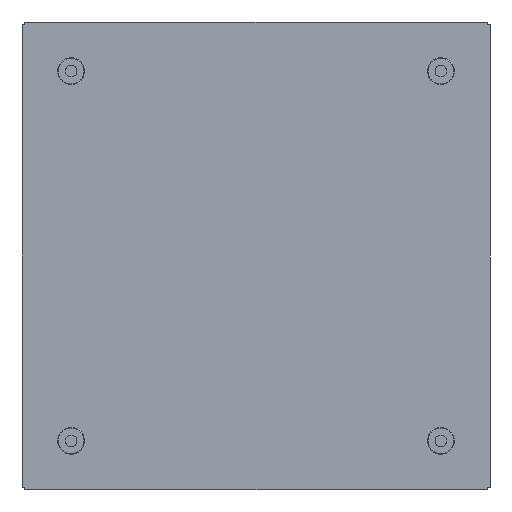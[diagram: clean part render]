
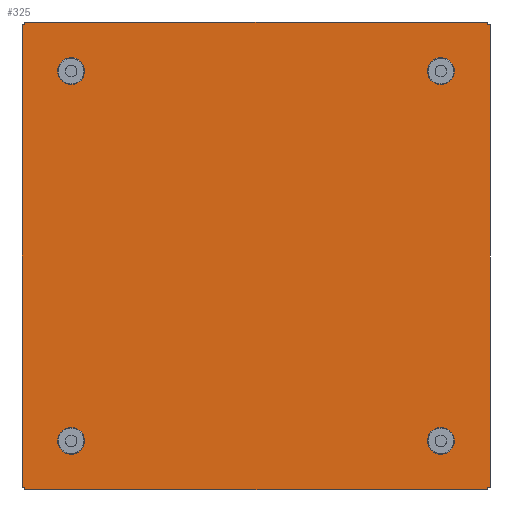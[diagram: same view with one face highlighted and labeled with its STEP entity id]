
A CAD part, front view. The second image highlights one B-rep face of the part: STEP entity #325.
In plain terms, the highlighted planar face has unit normal (0, -1, 0).
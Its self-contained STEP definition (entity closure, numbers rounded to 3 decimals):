
#325 = ADVANCED_FACE('',(#326,#424,#444,#455,#475),#486,.T.);
#326 = FACE_BOUND('',#327,.T.);
#327 = EDGE_LOOP('',(#328,#338,#346,#354,#362,#370,#378,#386,#394,#402,
    #410,#418));
#328 = ORIENTED_EDGE('',*,*,#329,.F.);
#329 = EDGE_CURVE('',#330,#332,#334,.T.);
#330 = VERTEX_POINT('',#331);
#331 = CARTESIAN_POINT('',(-100.,-1.2,98.729));
#332 = VERTEX_POINT('',#333);
#333 = CARTESIAN_POINT('',(-98.729,-1.2,98.729));
#334 = LINE('',#335,#336);
#335 = CARTESIAN_POINT('',(0.,-1.2,98.729));
#336 = VECTOR('',#337,1.);
#337 = DIRECTION('',(1.,-0.,0.));
#338 = ORIENTED_EDGE('',*,*,#339,.T.);
#339 = EDGE_CURVE('',#330,#340,#342,.T.);
#340 = VERTEX_POINT('',#341);
#341 = CARTESIAN_POINT('',(-100.,-1.2,-98.729));
#342 = LINE('',#343,#344);
#343 = CARTESIAN_POINT('',(-100.,-1.2,1100.));
#344 = VECTOR('',#345,1.);
#345 = DIRECTION('',(0.,0.,-1.));
#346 = ORIENTED_EDGE('',*,*,#347,.T.);
#347 = EDGE_CURVE('',#340,#348,#350,.T.);
#348 = VERTEX_POINT('',#349);
#349 = CARTESIAN_POINT('',(-98.729,-1.2,-98.729));
#350 = LINE('',#351,#352);
#351 = CARTESIAN_POINT('',(-100.,-1.2,-98.729));
#352 = VECTOR('',#353,1.);
#353 = DIRECTION('',(1.,0.,0.));
#354 = ORIENTED_EDGE('',*,*,#355,.F.);
#355 = EDGE_CURVE('',#356,#348,#358,.T.);
#356 = VERTEX_POINT('',#357);
#357 = CARTESIAN_POINT('',(-98.729,-1.2,-100.));
#358 = LINE('',#359,#360);
#359 = CARTESIAN_POINT('',(-98.729,-1.2,0.));
#360 = VECTOR('',#361,1.);
#361 = DIRECTION('',(0.,-0.,1.));
#362 = ORIENTED_EDGE('',*,*,#363,.T.);
#363 = EDGE_CURVE('',#356,#364,#366,.T.);
#364 = VERTEX_POINT('',#365);
#365 = CARTESIAN_POINT('',(98.729,-1.2,-100.));
#366 = LINE('',#367,#368);
#367 = CARTESIAN_POINT('',(-1100.,-1.2,-100.));
#368 = VECTOR('',#369,1.);
#369 = DIRECTION('',(1.,0.,0.));
#370 = ORIENTED_EDGE('',*,*,#371,.T.);
#371 = EDGE_CURVE('',#364,#372,#374,.T.);
#372 = VERTEX_POINT('',#373);
#373 = CARTESIAN_POINT('',(98.729,-1.2,-98.729));
#374 = LINE('',#375,#376);
#375 = CARTESIAN_POINT('',(98.729,-1.2,-100.));
#376 = VECTOR('',#377,1.);
#377 = DIRECTION('',(0.,0.,1.));
#378 = ORIENTED_EDGE('',*,*,#379,.F.);
#379 = EDGE_CURVE('',#380,#372,#382,.T.);
#380 = VERTEX_POINT('',#381);
#381 = CARTESIAN_POINT('',(100.,-1.2,-98.729));
#382 = LINE('',#383,#384);
#383 = CARTESIAN_POINT('',(0.,-1.2,-98.729));
#384 = VECTOR('',#385,1.);
#385 = DIRECTION('',(-1.,-0.,-0.));
#386 = ORIENTED_EDGE('',*,*,#387,.T.);
#387 = EDGE_CURVE('',#380,#388,#390,.T.);
#388 = VERTEX_POINT('',#389);
#389 = CARTESIAN_POINT('',(100.,-1.2,98.729));
#390 = LINE('',#391,#392);
#391 = CARTESIAN_POINT('',(100.,-1.2,-1100.));
#392 = VECTOR('',#393,1.);
#393 = DIRECTION('',(0.,0.,1.));
#394 = ORIENTED_EDGE('',*,*,#395,.T.);
#395 = EDGE_CURVE('',#388,#396,#398,.T.);
#396 = VERTEX_POINT('',#397);
#397 = CARTESIAN_POINT('',(98.729,-1.2,98.729));
#398 = LINE('',#399,#400);
#399 = CARTESIAN_POINT('',(100.,-1.2,98.729));
#400 = VECTOR('',#401,1.);
#401 = DIRECTION('',(-1.,0.,0.));
#402 = ORIENTED_EDGE('',*,*,#403,.F.);
#403 = EDGE_CURVE('',#404,#396,#406,.T.);
#404 = VERTEX_POINT('',#405);
#405 = CARTESIAN_POINT('',(98.729,-1.2,100.));
#406 = LINE('',#407,#408);
#407 = CARTESIAN_POINT('',(98.729,-1.2,0.));
#408 = VECTOR('',#409,1.);
#409 = DIRECTION('',(0.,-0.,-1.));
#410 = ORIENTED_EDGE('',*,*,#411,.T.);
#411 = EDGE_CURVE('',#404,#412,#414,.T.);
#412 = VERTEX_POINT('',#413);
#413 = CARTESIAN_POINT('',(-98.729,-1.2,100.));
#414 = LINE('',#415,#416);
#415 = CARTESIAN_POINT('',(1100.,-1.2,100.));
#416 = VECTOR('',#417,1.);
#417 = DIRECTION('',(-1.,0.,0.));
#418 = ORIENTED_EDGE('',*,*,#419,.T.);
#419 = EDGE_CURVE('',#412,#332,#420,.T.);
#420 = LINE('',#421,#422);
#421 = CARTESIAN_POINT('',(-98.729,-1.2,100.));
#422 = VECTOR('',#423,1.);
#423 = DIRECTION('',(0.,0.,-1.));
#424 = FACE_BOUND('',#425,.T.);
#425 = EDGE_LOOP('',(#426,#437));
#426 = ORIENTED_EDGE('',*,*,#427,.F.);
#427 = EDGE_CURVE('',#428,#430,#432,.T.);
#428 = VERTEX_POINT('',#429);
#429 = CARTESIAN_POINT('',(-79.,-1.2,-75.));
#430 = VERTEX_POINT('',#431);
#431 = CARTESIAN_POINT('',(-79.,-1.2,-83.));
#432 = CIRCLE('',#433,4.);
#433 = AXIS2_PLACEMENT_3D('',#434,#435,#436);
#434 = CARTESIAN_POINT('',(-79.,-1.2,-79.));
#435 = DIRECTION('',(0.,-1.,0.));
#436 = DIRECTION('',(0.,0.,1.));
#437 = ORIENTED_EDGE('',*,*,#438,.F.);
#438 = EDGE_CURVE('',#430,#428,#439,.T.);
#439 = CIRCLE('',#440,4.);
#440 = AXIS2_PLACEMENT_3D('',#441,#442,#443);
#441 = CARTESIAN_POINT('',(-79.,-1.2,-79.));
#442 = DIRECTION('',(0.,-1.,0.));
#443 = DIRECTION('',(0.,0.,1.));
#444 = FACE_BOUND('',#445,.T.);
#445 = EDGE_LOOP('',(#446));
#446 = ORIENTED_EDGE('',*,*,#447,.F.);
#447 = EDGE_CURVE('',#448,#448,#450,.T.);
#448 = VERTEX_POINT('',#449);
#449 = CARTESIAN_POINT('',(79.,-1.2,-83.));
#450 = CIRCLE('',#451,4.);
#451 = AXIS2_PLACEMENT_3D('',#452,#453,#454);
#452 = CARTESIAN_POINT('',(79.,-1.2,-79.));
#453 = DIRECTION('',(0.,-1.,0.));
#454 = DIRECTION('',(0.,0.,-1.));
#455 = FACE_BOUND('',#456,.T.);
#456 = EDGE_LOOP('',(#457,#468));
#457 = ORIENTED_EDGE('',*,*,#458,.F.);
#458 = EDGE_CURVE('',#459,#461,#463,.T.);
#459 = VERTEX_POINT('',#460);
#460 = CARTESIAN_POINT('',(79.,-1.2,83.));
#461 = VERTEX_POINT('',#462);
#462 = CARTESIAN_POINT('',(79.,-1.2,75.));
#463 = CIRCLE('',#464,4.);
#464 = AXIS2_PLACEMENT_3D('',#465,#466,#467);
#465 = CARTESIAN_POINT('',(79.,-1.2,79.));
#466 = DIRECTION('',(0.,-1.,0.));
#467 = DIRECTION('',(0.,0.,1.));
#468 = ORIENTED_EDGE('',*,*,#469,.F.);
#469 = EDGE_CURVE('',#461,#459,#470,.T.);
#470 = CIRCLE('',#471,4.);
#471 = AXIS2_PLACEMENT_3D('',#472,#473,#474);
#472 = CARTESIAN_POINT('',(79.,-1.2,79.));
#473 = DIRECTION('',(0.,-1.,0.));
#474 = DIRECTION('',(0.,0.,1.));
#475 = FACE_BOUND('',#476,.T.);
#476 = EDGE_LOOP('',(#477));
#477 = ORIENTED_EDGE('',*,*,#478,.F.);
#478 = EDGE_CURVE('',#479,#479,#481,.T.);
#479 = VERTEX_POINT('',#480);
#480 = CARTESIAN_POINT('',(-79.,-1.2,75.));
#481 = CIRCLE('',#482,4.);
#482 = AXIS2_PLACEMENT_3D('',#483,#484,#485);
#483 = CARTESIAN_POINT('',(-79.,-1.2,79.));
#484 = DIRECTION('',(0.,-1.,0.));
#485 = DIRECTION('',(0.,0.,-1.));
#486 = PLANE('',#487);
#487 = AXIS2_PLACEMENT_3D('',#488,#489,#490);
#488 = CARTESIAN_POINT('',(0.,-1.2,0.));
#489 = DIRECTION('',(0.,-1.,0.));
#490 = DIRECTION('',(0.,-0.,-1.));
